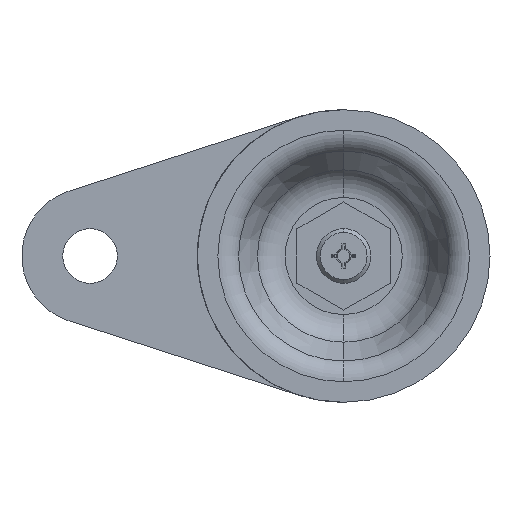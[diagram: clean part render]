
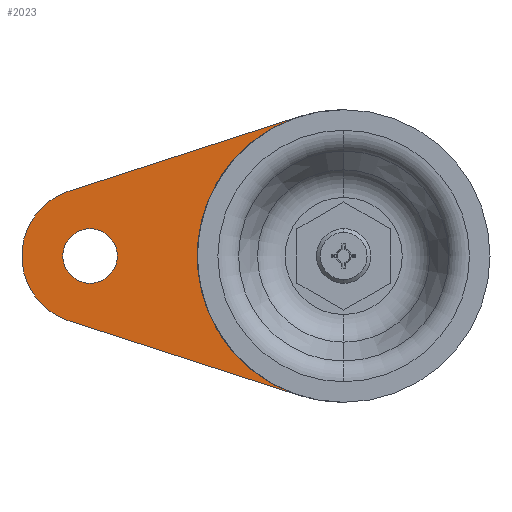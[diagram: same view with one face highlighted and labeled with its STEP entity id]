
A CAD part, front view. The second image highlights one B-rep face of the part: STEP entity #2023.
In plain terms, the highlighted planar face has unit normal (0, -1, 0).
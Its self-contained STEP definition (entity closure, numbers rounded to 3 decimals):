
#59 = VERTEX_POINT ( 'NONE', #409 ) ;
#63 = VERTEX_POINT ( 'NONE', #423 ) ;
#66 = VERTEX_POINT ( 'NONE', #493 ) ;
#67 = VERTEX_POINT ( 'NONE', #534 ) ;
#102 = VERTEX_POINT ( 'NONE', #420 ) ;
#117 = VERTEX_POINT ( 'NONE', #449 ) ;
#308 = ORIENTED_EDGE ( 'NONE', *, *, #2015, .T. ) ;
#309 = ORIENTED_EDGE ( 'NONE', *, *, #1968, .T. ) ;
#310 = ORIENTED_EDGE ( 'NONE', *, *, #2016, .F. ) ;
#311 = ORIENTED_EDGE ( 'NONE', *, *, #2003, .T. ) ;
#312 = ORIENTED_EDGE ( 'NONE', *, *, #2017, .F. ) ;
#313 = ORIENTED_EDGE ( 'NONE', *, *, #2018, .F. ) ;
#409 = CARTESIAN_POINT ( 'NONE',  ( -70.385, 0.3, -16.651 ) ) ;
#420 = CARTESIAN_POINT ( 'NONE',  ( -65., 0.3, -7. ) ) ;
#423 = CARTESIAN_POINT ( 'NONE',  ( -11.538, 0.3, 35.681 ) ) ;
#449 = CARTESIAN_POINT ( 'NONE',  ( -65., 0.3, 7. ) ) ;
#493 = CARTESIAN_POINT ( 'NONE',  ( -11.538, 0.3, -35.681 ) ) ;
#534 = CARTESIAN_POINT ( 'NONE',  ( -70.385, 0.3, 16.651 ) ) ;
#702 = EDGE_LOOP ( 'NONE', ( #308, #309 ) ) ;
#726 = EDGE_LOOP ( 'NONE', ( #310, #311, #312, #313 ) ) ;
#901 = AXIS2_PLACEMENT_3D ( 'NONE', #1397, #1398, #1399 ) ;
#916 = AXIS2_PLACEMENT_3D ( 'NONE', #1482, #1483, #1484 ) ;
#925 = AXIS2_PLACEMENT_3D ( 'NONE', #1517, #1518, #1519 ) ;
#926 = AXIS2_PLACEMENT_3D ( 'NONE', #1524, #1525, #1526 ) ;
#930 = AXIS2_PLACEMENT_3D ( 'NONE', #1535, #1533, #1538 ) ;
#1397 = CARTESIAN_POINT ( 'NONE',  ( -65., 0.3, 0. ) ) ;
#1398 = DIRECTION ( 'NONE',  ( 0., 1., 0. ) ) ;
#1399 = DIRECTION ( 'NONE',  ( 0., 0., 1. ) ) ;
#1482 = CARTESIAN_POINT ( 'NONE',  ( 0., 0.3, 0. ) ) ;
#1483 = DIRECTION ( 'NONE',  ( 0., 1., 0. ) ) ;
#1484 = DIRECTION ( 'NONE',  ( 0., 0., 1. ) ) ;
#1510 = CARTESIAN_POINT ( 'NONE',  ( -70.385, 0.3, -16.651 ) ) ;
#1511 = DIRECTION ( 'NONE',  ( -0.951, 0., 0.308 ) ) ;
#1517 = CARTESIAN_POINT ( 'NONE',  ( -65., 0.3, 0. ) ) ;
#1518 = DIRECTION ( 'NONE',  ( 0., 1., 0. ) ) ;
#1519 = DIRECTION ( 'NONE',  ( 0., 0., 1. ) ) ;
#1520 = CARTESIAN_POINT ( 'NONE',  ( -70.385, 0.3, 16.651 ) ) ;
#1521 = DIRECTION ( 'NONE',  ( 0.951, 0., 0.308 ) ) ;
#1524 = CARTESIAN_POINT ( 'NONE',  ( -65., 0.3, 0. ) ) ;
#1525 = DIRECTION ( 'NONE',  ( 0., 1., 0. ) ) ;
#1526 = DIRECTION ( 'NONE',  ( 0., 0., 1. ) ) ;
#1533 = DIRECTION ( 'NONE',  ( 0., 1., 0. ) ) ;
#1535 = CARTESIAN_POINT ( 'NONE',  ( -65., 0.3, 0. ) ) ;
#1536 = PLANE ( 'NONE',  #930 ) ;
#1538 = DIRECTION ( 'NONE',  ( 0., 0., 1. ) ) ;
#1565 = CIRCLE ( 'NONE', #901, 7. ) ;
#1606 = CIRCLE ( 'NONE', #916, 37.5 ) ;
#1636 = CIRCLE ( 'NONE', #925, 7. ) ;
#1637 = LINE ( 'NONE', #1510, #1639 ) ;
#1638 = LINE ( 'NONE', #1520, #1641 ) ;
#1639 = VECTOR ( 'NONE', #1511, 1000. ) ;
#1640 = CIRCLE ( 'NONE', #926, 17.5 ) ;
#1641 = VECTOR ( 'NONE', #1521, 1000. ) ;
#1646 = FACE_OUTER_BOUND ( 'NONE', #726, .T. ) ;
#1650 = FACE_BOUND ( 'NONE', #702, .T. ) ;
#1968 = EDGE_CURVE ( 'NONE', #102, #117, #1565, .T. ) ;
#2003 = EDGE_CURVE ( 'NONE', #66, #63, #1606, .T. ) ;
#2015 = EDGE_CURVE ( 'NONE', #117, #102, #1636, .T. ) ;
#2016 = EDGE_CURVE ( 'NONE', #66, #59, #1637, .T. ) ;
#2017 = EDGE_CURVE ( 'NONE', #67, #63, #1638, .T. ) ;
#2018 = EDGE_CURVE ( 'NONE', #59, #67, #1640, .T. ) ;
#2023 = ADVANCED_FACE ( 'NONE', ( #1650, #1646 ), #1536, .F. ) ;
